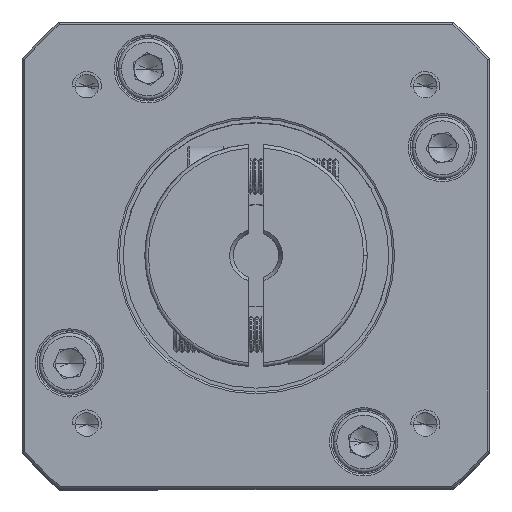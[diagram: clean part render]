
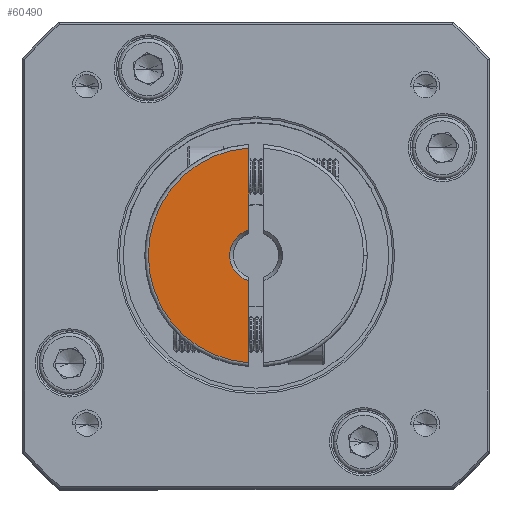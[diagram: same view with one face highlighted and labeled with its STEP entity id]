
A CAD part, top view. The second image highlights one B-rep face of the part: STEP entity #60490.
In plain terms, the highlighted planar face has unit normal (0, 0, 1).
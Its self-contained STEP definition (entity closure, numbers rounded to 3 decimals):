
#2186 = EDGE_LOOP ( 'NONE', ( #13453, #100759, #23906, #4337 ) ) ;
#4337 = ORIENTED_EDGE ( 'NONE', *, *, #102779, .T. ) ;
#6670 = EDGE_CURVE ( 'NONE', #33792, #103797, #21435, .T. ) ;
#10293 = AXIS2_PLACEMENT_3D ( 'NONE', #90260, #41314, #98366 ) ;
#13453 = ORIENTED_EDGE ( 'NONE', *, *, #75442, .F. ) ;
#14307 = CARTESIAN_POINT ( 'NONE',  ( 9.256, -5.73, 143.65 ) ) ;
#14607 = FACE_OUTER_BOUND ( 'NONE', #2186, .T. ) ;
#16832 = LINE ( 'NONE', #18999, #101471 ) ;
#18999 = CARTESIAN_POINT ( 'NONE',  ( 9.256, -5.73, 143.65 ) ) ;
#19607 = AXIS2_PLACEMENT_3D ( 'NONE', #83877, #34820, #92079 ) ;
#19747 = CARTESIAN_POINT ( 'NONE',  ( 9.256, 7.222, 143.65 ) ) ;
#21435 = CIRCLE ( 'NONE', #67618, 15. ) ;
#22342 = DIRECTION ( 'NONE',  ( 0., -1., 0. ) ) ;
#23906 = ORIENTED_EDGE ( 'NONE', *, *, #79923, .F. ) ;
#24592 = CIRCLE ( 'NONE', #10293, 3.675 ) ;
#33792 = VERTEX_POINT ( 'NONE', #34636 ) ;
#34636 = CARTESIAN_POINT ( 'NONE',  ( 9.256, 25.725, 143.65 ) ) ;
#34820 = DIRECTION ( 'NONE',  ( 0., 0., 1. ) ) ;
#39255 = LINE ( 'NONE', #14307, #101824 ) ;
#41074 = CARTESIAN_POINT ( 'NONE',  ( 9.256, 14.295, 143.65 ) ) ;
#41314 = DIRECTION ( 'NONE',  ( 0., 0., -1. ) ) ;
#51111 = PLANE ( 'NONE',  #19607 ) ;
#60490 = ADVANCED_FACE ( 'NONE', ( #14607 ), #51111, .T. ) ;
#67618 = AXIS2_PLACEMENT_3D ( 'NONE', #90362, #90230, #90016 ) ;
#75442 = EDGE_CURVE ( 'NONE', #33792, #89600, #16832, .T. ) ;
#79923 = EDGE_CURVE ( 'NONE', #106289, #103797, #39255, .T. ) ;
#83877 = CARTESIAN_POINT ( 'NONE',  ( 10.256, 10.759, 143.65 ) ) ;
#89317 = CARTESIAN_POINT ( 'NONE',  ( 9.256, -4.208, 143.65 ) ) ;
#89600 = VERTEX_POINT ( 'NONE', #41074 ) ;
#90016 = DIRECTION ( 'NONE',  ( 1., 0., 0. ) ) ;
#90230 = DIRECTION ( 'NONE',  ( 0., 0., 1. ) ) ;
#90260 = CARTESIAN_POINT ( 'NONE',  ( 10.256, 10.759, 143.65 ) ) ;
#90362 = CARTESIAN_POINT ( 'NONE',  ( 10.256, 10.759, 143.65 ) ) ;
#92079 = DIRECTION ( 'NONE',  ( 1., 0., 0. ) ) ;
#98366 = DIRECTION ( 'NONE',  ( 1., 0., 0. ) ) ;
#100759 = ORIENTED_EDGE ( 'NONE', *, *, #6670, .T. ) ;
#101386 = DIRECTION ( 'NONE',  ( 0., -1., 0. ) ) ;
#101471 = VECTOR ( 'NONE', #101386, 1000. ) ;
#101824 = VECTOR ( 'NONE', #22342, 1000. ) ;
#102779 = EDGE_CURVE ( 'NONE', #106289, #89600, #24592, .T. ) ;
#103797 = VERTEX_POINT ( 'NONE', #89317 ) ;
#106289 = VERTEX_POINT ( 'NONE', #19747 ) ;
